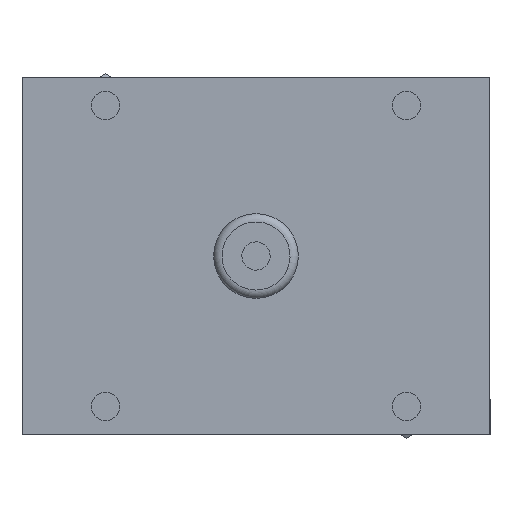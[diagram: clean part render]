
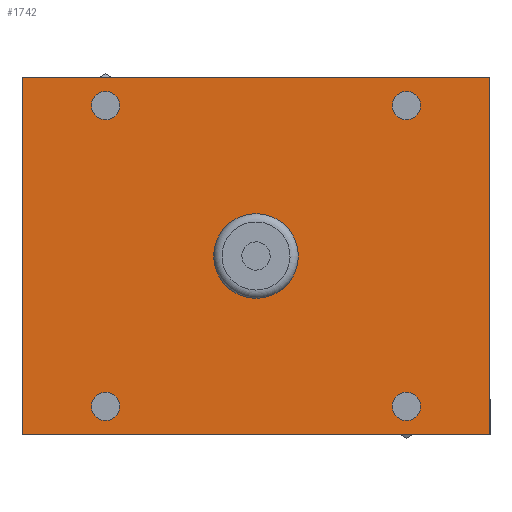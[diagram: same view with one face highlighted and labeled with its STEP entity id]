
A CAD part, front view. The second image highlights one B-rep face of the part: STEP entity #1742.
In plain terms, the highlighted planar face has unit normal (0, -1, 0).
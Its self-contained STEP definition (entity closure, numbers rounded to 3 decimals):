
#1632=CARTESIAN_POINT('',(0.,0.,-9.936));
#1633=VERTEX_POINT('',#1632);
#1634=CARTESIAN_POINT('',(0.,0.,0.));
#1635=DIRECTION('',(0.0,1.0,0.0));
#1636=DIRECTION('',(0.0,0.0,1.0));
#1637=AXIS2_PLACEMENT_3D('',#1634,#1635,#1636);
#1638=CIRCLE('',#1637,9.936);
#1639=EDGE_CURVE('',#1633,#1633,#1638,.T.);
#1656=CARTESIAN_POINT('',(0.,0.,0.));
#1657=DIRECTION('',(0.0,1.0,0.0));
#1658=DIRECTION('',(0.0,0.0,-1.0));
#1659=AXIS2_PLACEMENT_3D('',#1656,#1657,#1658);
#1660=PLANE('',#1659);
#1661=CARTESIAN_POINT('',(-55.,0.,42.));
#1662=VERTEX_POINT('',#1661);
#1663=CARTESIAN_POINT('',(-55.,0.,-42.));
#1664=VERTEX_POINT('',#1663);
#1665=CARTESIAN_POINT('',(-55.,0.,42.));
#1666=DIRECTION('',(0.0,0.0,-1.0));
#1667=VECTOR('',#1666,84.);
#1668=LINE('',#1665,#1667);
#1669=EDGE_CURVE('',#1662,#1664,#1668,.T.);
#1670=ORIENTED_EDGE('',*,*,#1669,.T.);
#1671=CARTESIAN_POINT('',(55.,0.,-42.));
#1672=VERTEX_POINT('',#1671);
#1673=CARTESIAN_POINT('',(-55.,0.,-42.));
#1674=DIRECTION('',(1.0,0.0,0.0));
#1675=VECTOR('',#1674,110.);
#1676=LINE('',#1673,#1675);
#1677=EDGE_CURVE('',#1664,#1672,#1676,.T.);
#1678=ORIENTED_EDGE('',*,*,#1677,.T.);
#1679=CARTESIAN_POINT('',(55.,0.,42.));
#1680=VERTEX_POINT('',#1679);
#1681=CARTESIAN_POINT('',(55.,0.,-42.));
#1682=DIRECTION('',(0.0,0.0,1.0));
#1683=VECTOR('',#1682,84.0);
#1684=LINE('',#1681,#1683);
#1685=EDGE_CURVE('',#1672,#1680,#1684,.T.);
#1686=ORIENTED_EDGE('',*,*,#1685,.T.);
#1687=CARTESIAN_POINT('',(55.,0.,42.));
#1688=DIRECTION('',(-1.0,0.0,0.0));
#1689=VECTOR('',#1688,110.0);
#1690=LINE('',#1687,#1689);
#1691=EDGE_CURVE('',#1680,#1662,#1690,.T.);
#1692=ORIENTED_EDGE('',*,*,#1691,.T.);
#1693=EDGE_LOOP('',(#1670,#1678,#1686,#1692));
#1694=FACE_OUTER_BOUND('',#1693,.T.);
#1695=CARTESIAN_POINT('',(-35.355,0.,-32.032));
#1696=VERTEX_POINT('',#1695);
#1697=CARTESIAN_POINT('',(-35.355,0.,-35.355));
#1698=DIRECTION('',(0.0,1.0,0.0));
#1699=DIRECTION('',(0.0,0.0,1.0));
#1700=AXIS2_PLACEMENT_3D('',#1697,#1698,#1699);
#1701=CIRCLE('',#1700,3.324);
#1702=EDGE_CURVE('',#1696,#1696,#1701,.T.);
#1703=ORIENTED_EDGE('',*,*,#1702,.T.);
#1704=EDGE_LOOP('',(#1703));
#1705=FACE_BOUND('',#1704,.T.);
#1706=CARTESIAN_POINT('',(35.355,0.,-32.032));
#1707=VERTEX_POINT('',#1706);
#1708=CARTESIAN_POINT('',(35.355,0.,-35.355));
#1709=DIRECTION('',(0.0,1.0,0.0));
#1710=DIRECTION('',(0.0,0.0,1.0));
#1711=AXIS2_PLACEMENT_3D('',#1708,#1709,#1710);
#1712=CIRCLE('',#1711,3.324);
#1713=EDGE_CURVE('',#1707,#1707,#1712,.T.);
#1714=ORIENTED_EDGE('',*,*,#1713,.T.);
#1715=EDGE_LOOP('',(#1714));
#1716=FACE_BOUND('',#1715,.T.);
#1717=CARTESIAN_POINT('',(35.355,0.,38.679));
#1718=VERTEX_POINT('',#1717);
#1719=CARTESIAN_POINT('',(35.355,0.,35.355));
#1720=DIRECTION('',(0.0,1.0,0.0));
#1721=DIRECTION('',(0.0,0.0,1.0));
#1722=AXIS2_PLACEMENT_3D('',#1719,#1720,#1721);
#1723=CIRCLE('',#1722,3.324);
#1724=EDGE_CURVE('',#1718,#1718,#1723,.T.);
#1725=ORIENTED_EDGE('',*,*,#1724,.T.);
#1726=EDGE_LOOP('',(#1725));
#1727=FACE_BOUND('',#1726,.T.);
#1728=CARTESIAN_POINT('',(-35.355,0.,38.679));
#1729=VERTEX_POINT('',#1728);
#1730=CARTESIAN_POINT('',(-35.355,0.,35.355));
#1731=DIRECTION('',(0.0,1.0,0.0));
#1732=DIRECTION('',(0.0,0.0,1.0));
#1733=AXIS2_PLACEMENT_3D('',#1730,#1731,#1732);
#1734=CIRCLE('',#1733,3.324);
#1735=EDGE_CURVE('',#1729,#1729,#1734,.T.);
#1736=ORIENTED_EDGE('',*,*,#1735,.T.);
#1737=EDGE_LOOP('',(#1736));
#1738=FACE_BOUND('',#1737,.T.);
#1739=ORIENTED_EDGE('',*,*,#1639,.T.);
#1740=EDGE_LOOP('',(#1739));
#1741=FACE_BOUND('',#1740,.T.);
#1742=ADVANCED_FACE('',(#1694,#1705,#1716,#1727,#1738,#1741),#1660,.F.);
